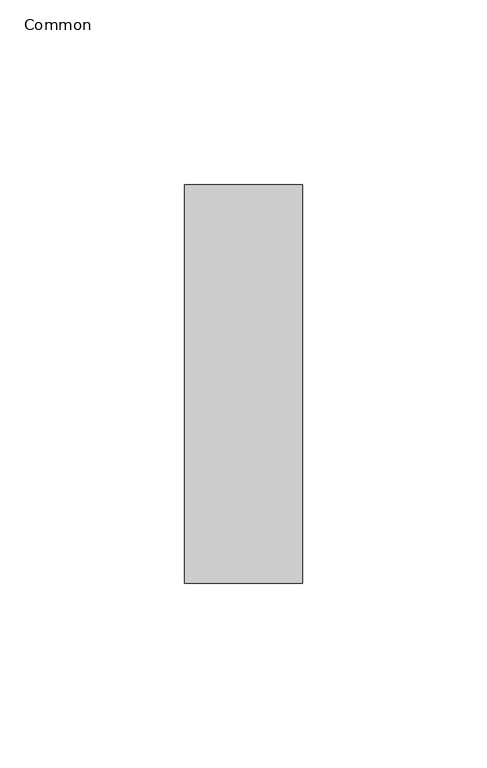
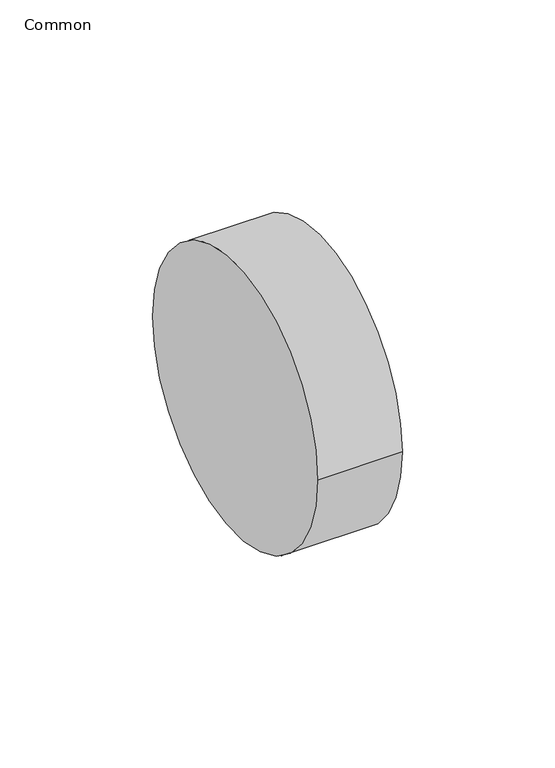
"""IFC4 building model written with IfcOpenShell, lengths in millimetres: pipe fitting geometry, 071_掃除口 : Common."""

from ifc_helpers import new_model, si_unit, point, frame, origin, origin_2d, place, context, project, spatial, circle_curve, trimmed, segment, composite_curve, outline, extrude, source, transform, mapped, element, save


def common_b14b07df(model_context):
    return source(origin(), model_context, "Body", "SweptSolid", [
        extrude(outline(composite_curve([segment(trimmed(circle_curve(origin_2d(), 54.0), [point((-54.0, 0.0))], [point((54.0, 0.0))], False, "CARTESIAN"), True, "CONTINUOUS"), segment(trimmed(circle_curve(origin_2d(), 54.0), [point((54.0, 0.0))], [point((-54.0, 0.0))], False, "CARTESIAN"), True, "CONTINUOUS")], self_intersect=False)), frame((0.0, 0.0, 0.0), z_axis=(1.0, 0.0, 0.0), x_axis=(0.0, 1.0, 0.0)), (0.0, 0.0, 1.0), 32.0),
    ])


if __name__ == "__main__":
    model = new_model("IFC4")
    model_context = context("Model", 3, world=origin())
    ifc_project = project(units=[si_unit("LENGTHUNIT", "METRE", prefix="MILLI")], contexts=[model_context])
    site = spatial("IfcSite", under=ifc_project)
    building = spatial("IfcBuilding", under=site)
    placement = place(None, origin())
    common_shape = common_b14b07df(model_context)
    element("IfcPipeFitting", 1, ObjectType="071_掃除口 : Common", at=placement, inside=building, context=model_context, shape_type="MappedRepresentation", body=[
        mapped(common_shape, transform((0.0, 0.0, 0.0), x_axis=(1.0, 0.0, 0.0), y_axis=(0.0, 1.0, 0.0), z_axis=(0.0, 0.0, 1.0))),
    ])
    save(model, "model.ifc")
